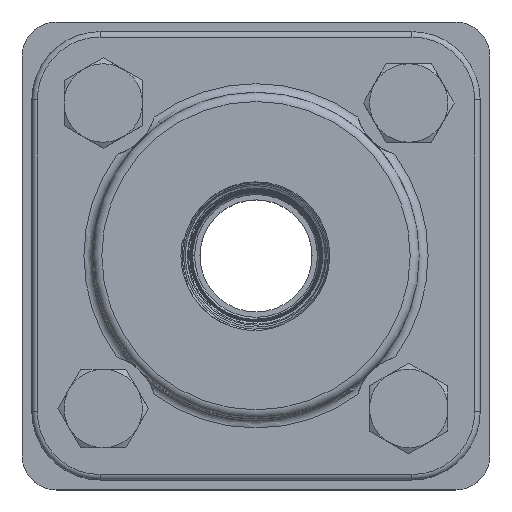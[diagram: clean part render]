
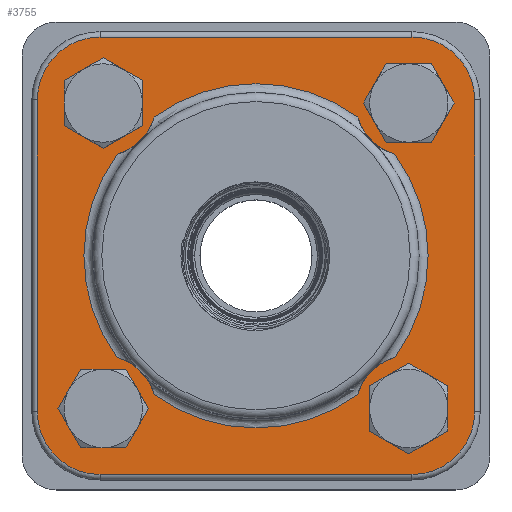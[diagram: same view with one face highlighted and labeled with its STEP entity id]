
A CAD part, top view. The second image highlights one B-rep face of the part: STEP entity #3755.
In plain terms, the highlighted planar face has unit normal (0, 0, 1).
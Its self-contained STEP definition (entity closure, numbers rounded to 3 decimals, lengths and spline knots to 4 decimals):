
#1138=VECTOR('',#4270,1.);
#1139=VECTOR('',#4273,1.);
#1140=VECTOR('',#4276,1.);
#1141=VECTOR('',#4279,1.);
#1269=LINE('',#5112,#1138);
#1270=LINE('',#5116,#1139);
#1271=LINE('',#5120,#1140);
#1272=LINE('',#5124,#1141);
#1400=PLANE('',#3941);
#1439=CIRCLE('',#3933,0.7491);
#1440=CIRCLE('',#3935,2.4384);
#1442=CIRCLE('',#3938,0.7491);
#1443=CIRCLE('',#3940,0.7491);
#1444=CIRCLE('',#3942,0.3429);
#1445=CIRCLE('',#3943,0.7491);
#1446=CIRCLE('',#3944,0.3429);
#1447=CIRCLE('',#3945,0.3429);
#1448=CIRCLE('',#3946,0.889);
#1449=CIRCLE('',#3947,0.889);
#1450=CIRCLE('',#3948,0.889);
#1451=CIRCLE('',#3949,0.889);
#1452=CIRCLE('',#3950,0.3429);
#1540=VERTEX_POINT('',#4973);
#1542=VERTEX_POINT('',#4976);
#1543=VERTEX_POINT('',#4997);
#1546=VERTEX_POINT('',#5037);
#1547=VERTEX_POINT('',#5057);
#1549=VERTEX_POINT('',#5078);
#1550=VERTEX_POINT('',#5098);
#1551=VERTEX_POINT('',#5102);
#1552=VERTEX_POINT('',#5103);
#1553=VERTEX_POINT('',#5106);
#1554=VERTEX_POINT('',#5108);
#1555=VERTEX_POINT('',#5110);
#1556=VERTEX_POINT('',#5111);
#1557=VERTEX_POINT('',#5113);
#1558=VERTEX_POINT('',#5115);
#1559=VERTEX_POINT('',#5117);
#1560=VERTEX_POINT('',#5119);
#1561=VERTEX_POINT('',#5121);
#1562=VERTEX_POINT('',#5123);
#1563=VERTEX_POINT('',#5126);
#1936=EDGE_CURVE('',#1542,#1540,#1439,.T.);
#1938=EDGE_CURVE('',#1542,#1543,#1440,.T.);
#1943=EDGE_CURVE('',#1546,#1540,#1440,.T.);
#1945=EDGE_CURVE('',#1546,#1547,#1442,.T.);
#1948=EDGE_CURVE('',#1549,#1547,#1440,.T.);
#1950=EDGE_CURVE('',#1549,#1550,#1443,.T.);
#1951=EDGE_CURVE('',#1551,#1551,#1444,.T.);
#1952=EDGE_CURVE('',#1552,#1550,#1440,.T.);
#1953=EDGE_CURVE('',#1552,#1543,#1445,.T.);
#1954=EDGE_CURVE('',#1553,#1553,#1446,.T.);
#1955=EDGE_CURVE('',#1554,#1554,#1447,.T.);
#1956=EDGE_CURVE('',#1555,#1556,#1448,.T.);
#1957=EDGE_CURVE('',#1557,#1555,#1269,.T.);
#1958=EDGE_CURVE('',#1558,#1557,#1449,.T.);
#1959=EDGE_CURVE('',#1559,#1558,#1270,.T.);
#1960=EDGE_CURVE('',#1560,#1559,#1450,.T.);
#1961=EDGE_CURVE('',#1561,#1560,#1271,.T.);
#1962=EDGE_CURVE('',#1562,#1561,#1451,.T.);
#1963=EDGE_CURVE('',#1556,#1562,#1272,.T.);
#1964=EDGE_CURVE('',#1563,#1563,#1452,.T.);
#2414=ORIENTED_EDGE('',*,*,#1951,.T.);
#2415=ORIENTED_EDGE('',*,*,#1938,.F.);
#2416=ORIENTED_EDGE('',*,*,#1936,.T.);
#2417=ORIENTED_EDGE('',*,*,#1943,.F.);
#2418=ORIENTED_EDGE('',*,*,#1945,.T.);
#2419=ORIENTED_EDGE('',*,*,#1948,.F.);
#2420=ORIENTED_EDGE('',*,*,#1950,.T.);
#2421=ORIENTED_EDGE('',*,*,#1952,.F.);
#2422=ORIENTED_EDGE('',*,*,#1953,.T.);
#2423=ORIENTED_EDGE('',*,*,#1954,.T.);
#2424=ORIENTED_EDGE('',*,*,#1955,.T.);
#2425=ORIENTED_EDGE('',*,*,#1956,.F.);
#2426=ORIENTED_EDGE('',*,*,#1957,.F.);
#2427=ORIENTED_EDGE('',*,*,#1958,.F.);
#2428=ORIENTED_EDGE('',*,*,#1959,.F.);
#2429=ORIENTED_EDGE('',*,*,#1960,.F.);
#2430=ORIENTED_EDGE('',*,*,#1961,.F.);
#2431=ORIENTED_EDGE('',*,*,#1962,.F.);
#2432=ORIENTED_EDGE('',*,*,#1963,.F.);
#2433=ORIENTED_EDGE('',*,*,#1964,.T.);
#3315=EDGE_LOOP('',(#2414));
#3316=EDGE_LOOP('',(#2415,#2416,#2417,#2418,#2419,#2420,#2421,#2422));
#3317=EDGE_LOOP('',(#2423));
#3318=EDGE_LOOP('',(#2424));
#3319=EDGE_LOOP('',(#2425,#2426,#2427,#2428,#2429,#2430,#2431,#2432));
#3320=EDGE_LOOP('',(#2433));
#3535=FACE_BOUND('',#3315,.T.);
#3536=FACE_BOUND('',#3316,.T.);
#3537=FACE_BOUND('',#3317,.T.);
#3538=FACE_BOUND('',#3318,.T.);
#3539=FACE_BOUND('',#3319,.T.);
#3540=FACE_BOUND('',#3320,.T.);
#3755=ADVANCED_FACE('',(#3535,#3536,#3537,#3538,#3539,#3540),#1400,.T.);
#3933=AXIS2_PLACEMENT_3D('',#4975,#4244,#4245);
#3935=AXIS2_PLACEMENT_3D('',#4996,#4247,#4248);
#3938=AXIS2_PLACEMENT_3D('',#5058,#4253,#4254);
#3940=AXIS2_PLACEMENT_3D('',#5099,#4257,#4258);
#3941=AXIS2_PLACEMENT_3D('',#5100,#4259,$);
#3942=AXIS2_PLACEMENT_3D('',#5101,#4260,#4261);
#3943=AXIS2_PLACEMENT_3D('',#5104,#4262,#4263);
#3944=AXIS2_PLACEMENT_3D('',#5105,#4264,#4265);
#3945=AXIS2_PLACEMENT_3D('',#5107,#4266,#4267);
#3946=AXIS2_PLACEMENT_3D('',#5109,#4268,#4269);
#3947=AXIS2_PLACEMENT_3D('',#5114,#4271,#4272);
#3948=AXIS2_PLACEMENT_3D('',#5118,#4274,#4275);
#3949=AXIS2_PLACEMENT_3D('',#5122,#4277,#4278);
#3950=AXIS2_PLACEMENT_3D('',#5125,#4280,#4281);
#4244=DIRECTION('',(0.,0.,1.));
#4245=DIRECTION('',(0.,-0.749,0.));
#4247=DIRECTION('',(0.,0.,1.));
#4248=DIRECTION('',(-2.438,0.,0.));
#4253=DIRECTION('',(0.,0.,1.));
#4254=DIRECTION('',(-0.749,0.,0.));
#4257=DIRECTION('',(0.,0.,1.));
#4258=DIRECTION('',(0.,0.749,0.));
#4259=DIRECTION('',(0.,0.,1.));
#4260=DIRECTION('',(0.,0.,-1.));
#4261=DIRECTION('',(0.,-0.343,0.));
#4262=DIRECTION('',(0.,0.,1.));
#4263=DIRECTION('',(0.749,0.,0.));
#4264=DIRECTION('',(0.,0.,-1.));
#4265=DIRECTION('',(-0.343,0.,0.));
#4266=DIRECTION('',(0.,0.,-1.));
#4267=DIRECTION('',(0.,0.343,0.));
#4268=DIRECTION('',(0.,0.,-1.));
#4269=DIRECTION('',(0.629,0.629,0.));
#4270=DIRECTION('',(1.,0.,0.));
#4271=DIRECTION('',(0.,0.,-1.));
#4272=DIRECTION('',(-0.629,0.629,0.));
#4273=DIRECTION('',(0.,1.,0.));
#4274=DIRECTION('',(0.,0.,-1.));
#4275=DIRECTION('',(-0.629,-0.629,0.));
#4276=DIRECTION('',(-1.,0.,0.));
#4277=DIRECTION('',(0.,0.,-1.));
#4278=DIRECTION('',(0.629,-0.629,0.));
#4279=DIRECTION('',(0.,-1.,0.));
#4280=DIRECTION('',(0.,0.,-1.));
#4281=DIRECTION('',(0.343,0.,0.));
#4973=CARTESIAN_POINT('',(1.4415,-1.9667,1.2573));
#4975=CARTESIAN_POINT('',(2.1641,-2.1641,1.2573));
#4976=CARTESIAN_POINT('',(1.9667,-1.4415,1.2573));
#4996=CARTESIAN_POINT('',(0.,0.,1.2573));
#4997=CARTESIAN_POINT('',(1.9667,1.4415,1.2573));
#5037=CARTESIAN_POINT('',(-1.4415,-1.9667,1.2573));
#5057=CARTESIAN_POINT('',(-1.9667,-1.4415,1.2573));
#5058=CARTESIAN_POINT('',(-2.1641,-2.1641,1.2573));
#5078=CARTESIAN_POINT('',(-1.9667,1.4415,1.2573));
#5098=CARTESIAN_POINT('',(-1.4415,1.9667,1.2573));
#5099=CARTESIAN_POINT('',(-2.1641,2.1641,1.2573));
#5100=CARTESIAN_POINT('',(0.,0.,1.2573));
#5101=CARTESIAN_POINT('',(2.1641,-2.1641,1.2573));
#5102=CARTESIAN_POINT('',(2.1641,-1.8212,1.2573));
#5103=CARTESIAN_POINT('',(1.4415,1.9667,1.2573));
#5104=CARTESIAN_POINT('',(2.1641,2.1641,1.2573));
#5105=CARTESIAN_POINT('',(-2.1641,-2.1641,1.2573));
#5106=CARTESIAN_POINT('',(-1.8212,-2.1641,1.2573));
#5107=CARTESIAN_POINT('',(-2.1641,2.1641,1.2573));
#5108=CARTESIAN_POINT('',(-2.1641,1.8212,1.2573));
#5109=CARTESIAN_POINT('',(2.2098,2.2098,1.2573));
#5110=CARTESIAN_POINT('',(2.2098,3.0988,1.2573));
#5111=CARTESIAN_POINT('',(3.0988,2.2098,1.2573));
#5112=CARTESIAN_POINT('',(0.,3.0988,1.2573));
#5113=CARTESIAN_POINT('',(-2.2098,3.0988,1.2573));
#5114=CARTESIAN_POINT('',(-2.2098,2.2098,1.2573));
#5115=CARTESIAN_POINT('',(-3.0988,2.2098,1.2573));
#5116=CARTESIAN_POINT('',(-3.0988,0.,1.2573));
#5117=CARTESIAN_POINT('',(-3.0988,-2.2098,1.2573));
#5118=CARTESIAN_POINT('',(-2.2098,-2.2098,1.2573));
#5119=CARTESIAN_POINT('',(-2.2098,-3.0988,1.2573));
#5120=CARTESIAN_POINT('',(0.,-3.0988,1.2573));
#5121=CARTESIAN_POINT('',(2.2098,-3.0988,1.2573));
#5122=CARTESIAN_POINT('',(2.2098,-2.2098,1.2573));
#5123=CARTESIAN_POINT('',(3.0988,-2.2098,1.2573));
#5124=CARTESIAN_POINT('',(3.0988,0.,1.2573));
#5125=CARTESIAN_POINT('',(2.1641,2.1641,1.2573));
#5126=CARTESIAN_POINT('',(1.8212,2.1641,1.2573));
